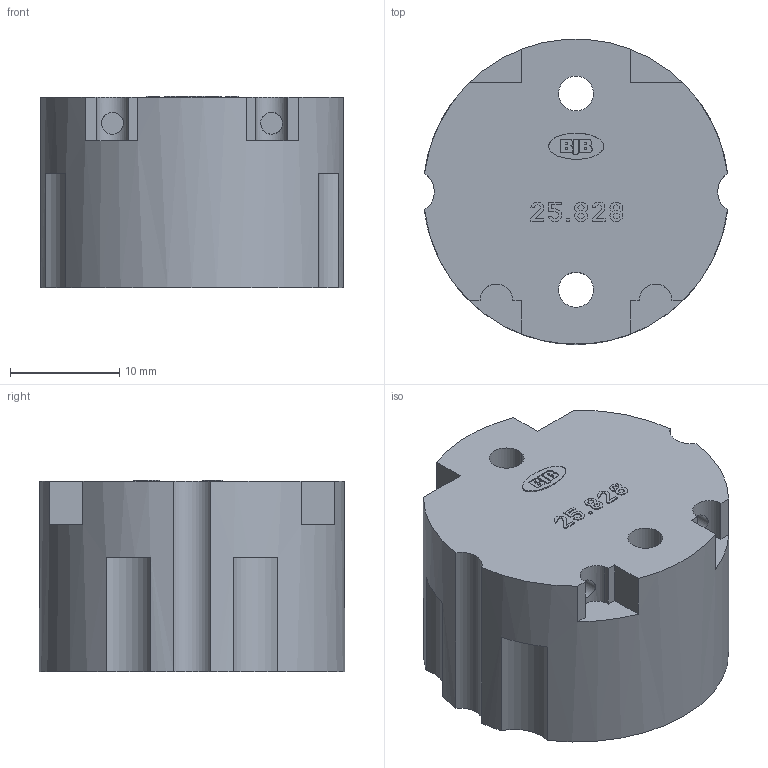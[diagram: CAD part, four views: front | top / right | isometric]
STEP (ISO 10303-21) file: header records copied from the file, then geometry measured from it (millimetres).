
FILE_DESCRIPTION(('Surface Model. B-Spline boundary curves.'),'1');
FILE_NAME('C:\Programme\CORETECH\in\25_828_1000.stp','2002-03-18 T',(' '),(' '),'STEP Interface v190.0 by CORETECH International','TRANS-3D v190.0 by CORETECH International',' ');
FILE_SCHEMA(('CONFIG_CONTROL_DESIGN'));
Length unit declared in the file: millimetre
Products named in the file (1): 25_828_1000
Bounding box: 27.8 x 28 x 17.6 mm (x, y, z)
Volume: 6700.1 mm3; surface area: 4037.7 mm2
Topology: 1 solids, 1 shells, 302 faces, 831 edges, 554 vertices
Faces by surface type: plane 247, cylinder 48, bspline 7
Entity records: 9755 total; most frequent: CARTESIAN_POINT 1969, ORIENTED_EDGE 1662, DIRECTION 1517, EDGE_CURVE 831, VECTOR 701, LINE 701, VERTEX_POINT 554, AXIS2_PLACEMENT_3D 408
